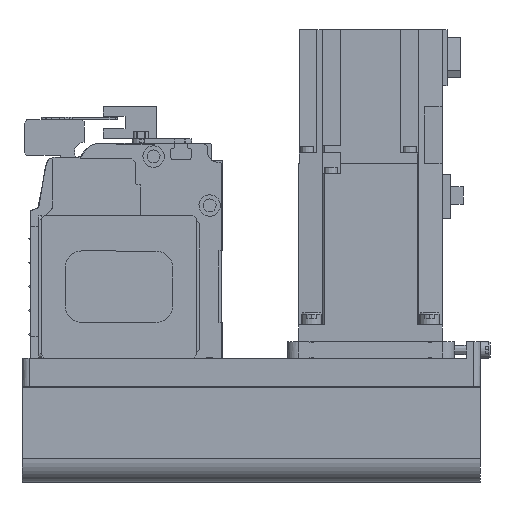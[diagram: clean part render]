
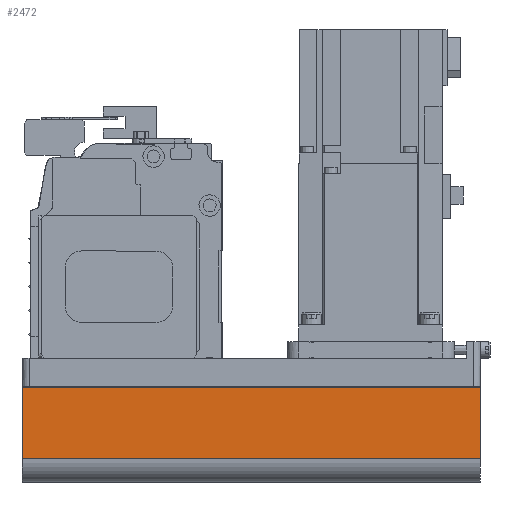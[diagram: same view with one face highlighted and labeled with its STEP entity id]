
A CAD part, left-side view. The second image highlights one B-rep face of the part: STEP entity #2472.
In plain terms, the highlighted planar face has unit normal (-1, 0, 0) as drawn and (0, 1, 0) by its records, which use the part's own axes.
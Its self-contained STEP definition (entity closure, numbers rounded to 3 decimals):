
#2472 = ADVANCED_FACE( '', ( #5114 ), #5115, .T. );
#5114 = FACE_OUTER_BOUND( '', #7722, .T. );
#5115 = PLANE( '', #7723 );
#7722 = EDGE_LOOP( '', ( #14381, #14382, #14383, #14384 ) );
#7723 = AXIS2_PLACEMENT_3D( '', #14385, #14386, #14387 );
#14381 = ORIENTED_EDGE( '', *, *, #15096, .F. );
#14382 = ORIENTED_EDGE( '', *, *, #14568, .F. );
#14383 = ORIENTED_EDGE( '', *, *, #16065, .T. );
#14384 = ORIENTED_EDGE( '', *, *, #16153, .T. );
#14385 = CARTESIAN_POINT( '', ( -192., 40., -42. ) );
#14386 = DIRECTION( '', ( 0., 1., 0. ) );
#14387 = DIRECTION( '', ( 0., 0., 1. ) );
#14568 = EDGE_CURVE( '', #17221, #17217, #17223, .T. );
#15096 = EDGE_CURVE( '', #17217, #18135, #18136, .T. );
#16065 = EDGE_CURVE( '', #17221, #19669, #19672, .T. );
#16153 = EDGE_CURVE( '', #19669, #18135, #19792, .T. );
#17217 = VERTEX_POINT( '', #21091 );
#17221 = VERTEX_POINT( '', #21096 );
#17223 = LINE( '', #21098, #21099 );
#18135 = VERTEX_POINT( '', #22264 );
#18136 = LINE( '', #22265, #22266 );
#19669 = VERTEX_POINT( '', #24340 );
#19672 = LINE( '', #24344, #24345 );
#19792 = LINE( '', #24498, #24499 );
#21091 = CARTESIAN_POINT( '', ( 0., 40., -42. ) );
#21096 = CARTESIAN_POINT( '', ( -192., 40., -42. ) );
#21098 = CARTESIAN_POINT( '', ( -192., 40., -42. ) );
#21099 = VECTOR( '', #26076, 1000. );
#22264 = CARTESIAN_POINT( '', ( 0., 40., -12.1 ) );
#22265 = CARTESIAN_POINT( '', ( 0., 40., -42. ) );
#22266 = VECTOR( '', #26840, 1000. );
#24340 = CARTESIAN_POINT( '', ( -192., 40., -12.1 ) );
#24344 = CARTESIAN_POINT( '', ( -192., 40., -42. ) );
#24345 = VECTOR( '', #27995, 1000. );
#24498 = CARTESIAN_POINT( '', ( -192., 40., -12.1 ) );
#24499 = VECTOR( '', #28107, 1000. );
#26076 = DIRECTION( '', ( 1., 0., 0. ) );
#26840 = DIRECTION( '', ( 0., 0., 1. ) );
#27995 = DIRECTION( '', ( 0., 0., 1. ) );
#28107 = DIRECTION( '', ( 1., 0., 0. ) );
